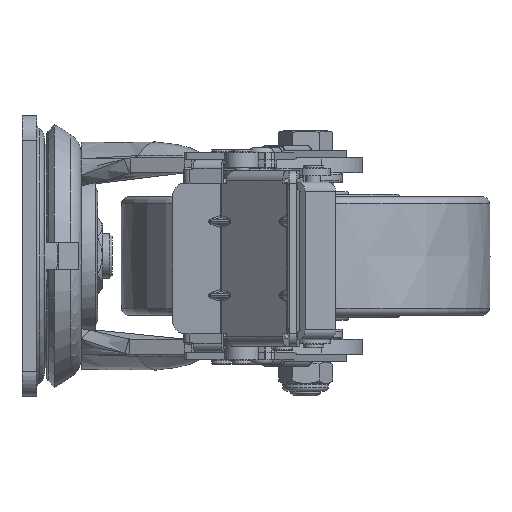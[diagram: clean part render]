
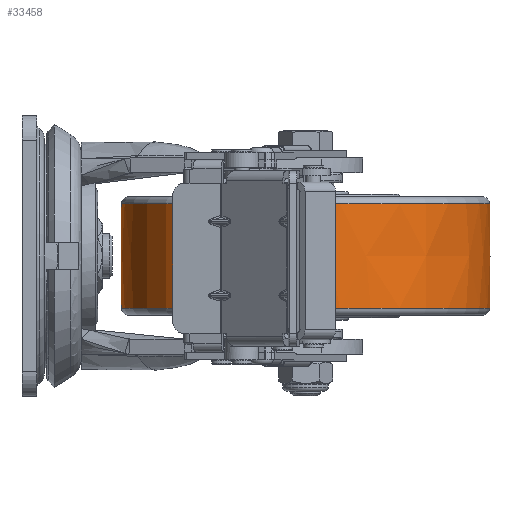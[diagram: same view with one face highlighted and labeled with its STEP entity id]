
A CAD part, left-side view. The second image highlights one B-rep face of the part: STEP entity #33458.
In plain terms, the highlighted free-form (B-spline) face has degree [2, 2] with [3, 9] control points.
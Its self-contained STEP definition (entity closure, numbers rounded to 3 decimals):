
#29=(
BOUNDED_SURFACE()
B_SPLINE_SURFACE(2,2,((#57166,#57167,#57168,#57169,#57170,#57171,#57172,
#57173,#57174),(#57175,#57176,#57177,#57178,#57179,#57180,#57181,#57182,
#57183),(#57184,#57185,#57186,#57187,#57188,#57189,#57190,#57191,#57192)),
 .UNSPECIFIED.,.F.,.T.,.F.)
B_SPLINE_SURFACE_WITH_KNOTS((3,3),(3,2,2,2,3),(-0.03,0.03),
(-3.142,-1.571,0.,1.571,3.142),
 .UNSPECIFIED.)
GEOMETRIC_REPRESENTATION_ITEM()
RATIONAL_B_SPLINE_SURFACE(((1.,0.707,1.,0.707,1.,
0.707,1.,0.707,1.),(1.,0.707,
1.,0.707,1.,0.707,
1.,0.707,1.),(1.,0.707,
1.,0.707,1.,0.707,1.,0.707,1.)))
REPRESENTATION_ITEM('')
SURFACE()
);
#568=(
BOUNDED_CURVE()
B_SPLINE_CURVE(2,(#57197,#57198,#57199),.UNSPECIFIED.,.F.,.F.)
B_SPLINE_CURVE_WITH_KNOTS((3,3),(-0.03,0.03),
 .UNSPECIFIED.)
CURVE()
GEOMETRIC_REPRESENTATION_ITEM()
RATIONAL_B_SPLINE_CURVE((1.,1.,1.))
REPRESENTATION_ITEM('')
);
#9617=FACE_OUTER_BOUND('',#11585,.T.);
#11585=EDGE_LOOP('',(#28794,#28795,#28796,#28797,#28798,#28799));
#12416=CIRCLE('',#36037,74.682);
#12417=CIRCLE('',#36038,74.682);
#12419=CIRCLE('',#36040,74.682);
#12420=CIRCLE('',#36041,74.682);
#15366=VERTEX_POINT('',#57160);
#15367=VERTEX_POINT('',#57161);
#15369=VERTEX_POINT('',#57193);
#15370=VERTEX_POINT('',#57194);
#19850=EDGE_CURVE('',#15366,#15367,#12416,.T.);
#19851=EDGE_CURVE('',#15367,#15366,#12417,.T.);
#19853=EDGE_CURVE('',#15369,#15370,#12419,.T.);
#19854=EDGE_CURVE('',#15370,#15369,#12420,.T.);
#19855=EDGE_CURVE('',#15370,#15367,#568,.T.);
#28794=ORIENTED_EDGE('',*,*,#19853,.F.);
#28795=ORIENTED_EDGE('',*,*,#19854,.F.);
#28796=ORIENTED_EDGE('',*,*,#19855,.T.);
#28797=ORIENTED_EDGE('',*,*,#19851,.T.);
#28798=ORIENTED_EDGE('',*,*,#19850,.T.);
#28799=ORIENTED_EDGE('',*,*,#19855,.F.);
#33458=ADVANCED_FACE('',(#9617),#29,.F.);
#36037=AXIS2_PLACEMENT_3D('',#57162,#44517,#44518);
#36038=AXIS2_PLACEMENT_3D('',#57163,#44519,#44520);
#36040=AXIS2_PLACEMENT_3D('',#57195,#44523,#44524);
#36041=AXIS2_PLACEMENT_3D('',#57196,#44525,#44526);
#44517=DIRECTION('center_axis',(0.,0.,
1.));
#44518=DIRECTION('ref_axis',(0.652,-0.758,0.));
#44519=DIRECTION('center_axis',(0.,0.,
1.));
#44520=DIRECTION('ref_axis',(0.652,-0.758,0.));
#44523=DIRECTION('center_axis',(0.,0.,
1.));
#44524=DIRECTION('ref_axis',(0.652,-0.758,0.));
#44525=DIRECTION('center_axis',(0.,0.,
1.));
#44526=DIRECTION('ref_axis',(0.652,-0.758,0.));
#57160=CARTESIAN_POINT('',(24.254,-56.915,-21.09));
#57161=CARTESIAN_POINT('',(-81.064,-48.985,-21.09));
#57162=CARTESIAN_POINT('Origin',(-32.37,-105.609,-21.09));
#57163=CARTESIAN_POINT('Origin',(-32.37,-105.609,-21.09));
#57166=CARTESIAN_POINT('Ctrl Pts',(-81.064,-48.985,-21.09));
#57167=CARTESIAN_POINT('Ctrl Pts',(-137.688,-97.68,
-21.09));
#57168=CARTESIAN_POINT('Ctrl Pts',(-88.994,-154.304,
-21.09));
#57169=CARTESIAN_POINT('Ctrl Pts',(-40.299,-210.928,
-21.09));
#57170=CARTESIAN_POINT('Ctrl Pts',(16.325,-162.233,-21.09));
#57171=CARTESIAN_POINT('Ctrl Pts',(72.949,-113.539,-21.09));
#57172=CARTESIAN_POINT('Ctrl Pts',(24.254,-56.915,-21.09));
#57173=CARTESIAN_POINT('Ctrl Pts',(-24.44,-0.291,
-21.09));
#57174=CARTESIAN_POINT('Ctrl Pts',(-81.064,-48.985,-21.09));
#57175=CARTESIAN_POINT('Ctrl Pts',(-81.479,-48.503,
0.));
#57176=CARTESIAN_POINT('Ctrl Pts',(-138.585,-97.613,
0.));
#57177=CARTESIAN_POINT('Ctrl Pts',(-89.476,-154.719,0.));
#57178=CARTESIAN_POINT('Ctrl Pts',(-40.367,-211.824,
0.));
#57179=CARTESIAN_POINT('Ctrl Pts',(16.739,-162.715,0.));
#57180=CARTESIAN_POINT('Ctrl Pts',(73.845,-113.606,0.));
#57181=CARTESIAN_POINT('Ctrl Pts',(24.736,-56.5,0.));
#57182=CARTESIAN_POINT('Ctrl Pts',(-24.373,0.606,
0.));
#57183=CARTESIAN_POINT('Ctrl Pts',(-81.479,-48.503,
0.));
#57184=CARTESIAN_POINT('Ctrl Pts',(-81.064,-48.985,
21.09));
#57185=CARTESIAN_POINT('Ctrl Pts',(-137.688,-97.68,
21.09));
#57186=CARTESIAN_POINT('Ctrl Pts',(-88.994,-154.304,
21.09));
#57187=CARTESIAN_POINT('Ctrl Pts',(-40.299,-210.928,21.09));
#57188=CARTESIAN_POINT('Ctrl Pts',(16.325,-162.233,21.09));
#57189=CARTESIAN_POINT('Ctrl Pts',(72.949,-113.539,21.09));
#57190=CARTESIAN_POINT('Ctrl Pts',(24.254,-56.915,21.09));
#57191=CARTESIAN_POINT('Ctrl Pts',(-24.44,-0.291,
21.09));
#57192=CARTESIAN_POINT('Ctrl Pts',(-81.064,-48.985,
21.09));
#57193=CARTESIAN_POINT('',(24.254,-56.915,21.09));
#57194=CARTESIAN_POINT('',(-81.064,-48.985,21.09));
#57195=CARTESIAN_POINT('Origin',(-32.37,-105.609,21.09));
#57196=CARTESIAN_POINT('Origin',(-32.37,-105.609,21.09));
#57197=CARTESIAN_POINT('Ctrl Pts',(-81.064,-48.985,
21.09));
#57198=CARTESIAN_POINT('Ctrl Pts',(-81.479,-48.503,
0.));
#57199=CARTESIAN_POINT('Ctrl Pts',(-81.064,-48.985,-21.09));
